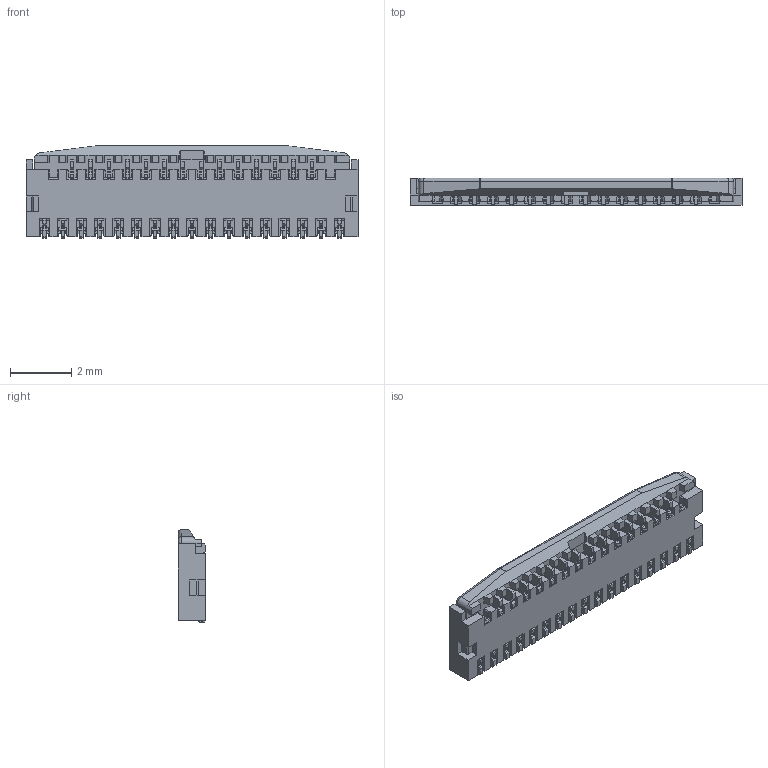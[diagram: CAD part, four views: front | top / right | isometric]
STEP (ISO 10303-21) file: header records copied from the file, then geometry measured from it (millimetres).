
FILE_DESCRIPTION (( 'STEP AP203' ), '1' );
FILE_NAME ('20599-029ExC ASS''Y ACT CLOSE STEP R1 ALL.STEP', '2014-12-04T01:42:27', ( ' ' ), ( ' ' ), 'SwSTEP 2.0', 'SolidWorks 2011', '' );
FILE_SCHEMA (( 'CONFIG_CONTROL_DESIGN' ));
Products named in the file (1): 20599-029ExC ASS''Y ACT CLOSE STEP R1 ALL
Bounding box: 10.8 x 0.9 x 3 mm (x, y, z)
Volume: 21.2 mm3; surface area: 136 mm2
Topology: 1 solids, 1 shells, 2864 faces, 8614 edges, 5600 vertices
Faces by surface type: plane 2405, cylinder 407, bspline 48, sphere 2, torus 2
Entity records: 96819 total; most frequent: CARTESIAN_POINT 19177, ORIENTED_EDGE 17224, DIRECTION 14858, EDGE_CURVE 8612, VECTOR 7600, LINE 7600, VERTEX_POINT 5600, AXIS2_PLACEMENT_3D 3629
